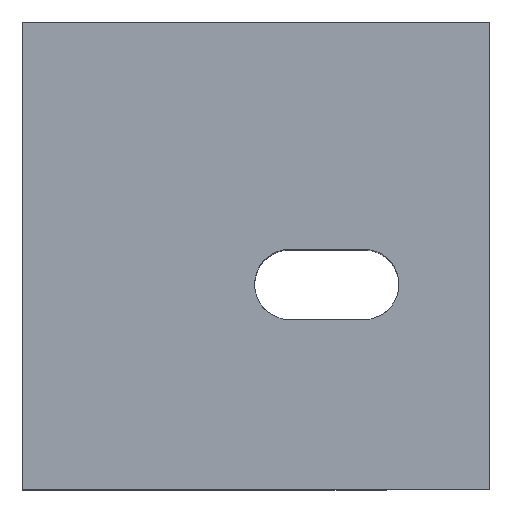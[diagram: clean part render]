
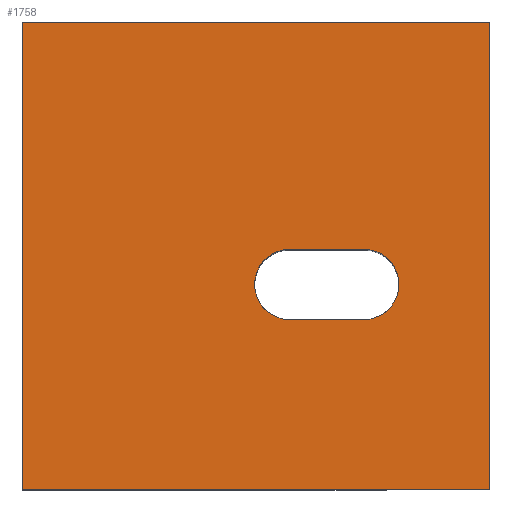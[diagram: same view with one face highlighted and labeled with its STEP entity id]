
A CAD part, top view. The second image highlights one B-rep face of the part: STEP entity #1758.
In plain terms, the highlighted planar face has unit normal (0, 0, 1).
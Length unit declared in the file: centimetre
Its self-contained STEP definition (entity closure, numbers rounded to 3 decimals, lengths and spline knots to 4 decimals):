
#3 = LINE ( 'NONE', #843, #1770 ) ;
#35 = VERTEX_POINT ( 'NONE', #1582 ) ;
#50 = AXIS2_PLACEMENT_3D ( 'NONE', #207, #772, #1604 ) ;
#74 = LINE ( 'NONE', #504, #1227 ) ;
#86 = DIRECTION ( 'NONE',  ( 0., 0., -1. ) ) ;
#92 = CARTESIAN_POINT ( 'NONE',  ( 0., 0., 1000. ) ) ;
#101 = DIRECTION ( 'NONE',  ( 1., 0., 0. ) ) ;
#102 = DIRECTION ( 'NONE',  ( -1., 0., 0. ) ) ;
#125 = ORIENTED_EDGE ( 'NONE', *, *, #445, .T. ) ;
#130 = VERTEX_POINT ( 'NONE', #1653 ) ;
#133 = AXIS2_PLACEMENT_3D ( 'NONE', #219, #86, #1333 ) ;
#141 = AXIS2_PLACEMENT_3D ( 'NONE', #172, #455, #598 ) ;
#149 = CARTESIAN_POINT ( 'NONE',  ( 572.1158, 363.1982, 1000. ) ) ;
#153 = CARTESIAN_POINT ( 'NONE',  ( 1000., 1000., 1000. ) ) ;
#154 = EDGE_LOOP ( 'NONE', ( #224, #1002, #748, #1741 ) ) ;
#158 = CARTESIAN_POINT ( 'NONE',  ( 730.664, 513.591, 1000. ) ) ;
#172 = CARTESIAN_POINT ( 'NONE',  ( 730.664, 438.3946, 1000. ) ) ;
#182 = DIRECTION ( 'NONE',  ( 0., -1., 0. ) ) ;
#186 = EDGE_CURVE ( 'NONE', #130, #35, #3, .T. ) ;
#195 = FACE_OUTER_BOUND ( 'NONE', #154, .T. ) ;
#207 = CARTESIAN_POINT ( 'NONE',  ( 572.1158, 438.3946, 1000. ) ) ;
#219 = CARTESIAN_POINT ( 'NONE',  ( 572.1158, 438.3946, 1000. ) ) ;
#224 = ORIENTED_EDGE ( 'NONE', *, *, #297, .T. ) ;
#242 = VERTEX_POINT ( 'NONE', #812 ) ;
#252 = VERTEX_POINT ( 'NONE', #149 ) ;
#270 = EDGE_CURVE ( 'NONE', #1260, #584, #1544, .T. ) ;
#297 = EDGE_CURVE ( 'NONE', #1391, #130, #1285, .T. ) ;
#307 = ORIENTED_EDGE ( 'NONE', *, *, #1456, .T. ) ;
#314 = EDGE_CURVE ( 'NONE', #35, #1134, #1566, .T. ) ;
#328 = LINE ( 'NONE', #449, #572 ) ;
#395 = EDGE_CURVE ( 'NONE', #242, #1260, #328, .T. ) ;
#445 = EDGE_CURVE ( 'NONE', #584, #252, #74, .T. ) ;
#449 = CARTESIAN_POINT ( 'NONE',  ( 730.664, 513.591, 1000. ) ) ;
#455 = DIRECTION ( 'NONE',  ( 0., 0., -1. ) ) ;
#471 = VECTOR ( 'NONE', #1271, 100. ) ;
#504 = CARTESIAN_POINT ( 'NONE',  ( 572.1158, 363.1982, 1000. ) ) ;
#552 = DIRECTION ( 'NONE',  ( 1., 0., 0. ) ) ;
#572 = VECTOR ( 'NONE', #1413, 100. ) ;
#584 = VERTEX_POINT ( 'NONE', #671 ) ;
#588 = EDGE_CURVE ( 'NONE', #1134, #1391, #799, .T. ) ;
#592 = CIRCLE ( 'NONE', #50, 75.1964 ) ;
#598 = DIRECTION ( 'NONE',  ( 1., 0., 0. ) ) ;
#671 = CARTESIAN_POINT ( 'NONE',  ( 730.664, 363.1982, 1000. ) ) ;
#737 = CARTESIAN_POINT ( 'NONE',  ( 1000., 1000., 1000. ) ) ;
#748 = ORIENTED_EDGE ( 'NONE', *, *, #314, .T. ) ;
#772 = DIRECTION ( 'NONE',  ( 0., 0., -1. ) ) ;
#796 = VECTOR ( 'NONE', #182, 100. ) ;
#799 = LINE ( 'NONE', #1206, #1453 ) ;
#812 = CARTESIAN_POINT ( 'NONE',  ( 572.1158, 513.591, 1000. ) ) ;
#843 = CARTESIAN_POINT ( 'NONE',  ( 0., 0., 1000. ) ) ;
#900 = PLANE ( 'NONE',  #1440 ) ;
#969 = CARTESIAN_POINT ( 'NONE',  ( 496.9194, 438.3946, 1000. ) ) ;
#1001 = CARTESIAN_POINT ( 'NONE',  ( 0., 1000., 1000. ) ) ;
#1002 = ORIENTED_EDGE ( 'NONE', *, *, #186, .T. ) ;
#1127 = ORIENTED_EDGE ( 'NONE', *, *, #270, .T. ) ;
#1134 = VERTEX_POINT ( 'NONE', #153 ) ;
#1135 = CARTESIAN_POINT ( 'NONE',  ( 0., 1000., 1000. ) ) ;
#1206 = CARTESIAN_POINT ( 'NONE',  ( 0., 1000., 1000. ) ) ;
#1227 = VECTOR ( 'NONE', #102, 100. ) ;
#1238 = VERTEX_POINT ( 'NONE', #969 ) ;
#1260 = VERTEX_POINT ( 'NONE', #158 ) ;
#1271 = DIRECTION ( 'NONE',  ( 0., 1., 0. ) ) ;
#1277 = CIRCLE ( 'NONE', #133, 75.1964 ) ;
#1285 = LINE ( 'NONE', #1001, #796 ) ;
#1320 = FACE_BOUND ( 'NONE', #1484, .T. ) ;
#1333 = DIRECTION ( 'NONE',  ( 1., 0., 0. ) ) ;
#1343 = DIRECTION ( 'NONE',  ( -1., 0., 0. ) ) ;
#1391 = VERTEX_POINT ( 'NONE', #1135 ) ;
#1413 = DIRECTION ( 'NONE',  ( 1., 0., 0. ) ) ;
#1440 = AXIS2_PLACEMENT_3D ( 'NONE', #92, #1601, #101 ) ;
#1453 = VECTOR ( 'NONE', #1343, 100. ) ;
#1456 = EDGE_CURVE ( 'NONE', #1238, #242, #1277, .T. ) ;
#1465 = EDGE_CURVE ( 'NONE', #252, #1238, #592, .T. ) ;
#1484 = EDGE_LOOP ( 'NONE', ( #1757, #307, #1524, #1127, #125 ) ) ;
#1524 = ORIENTED_EDGE ( 'NONE', *, *, #395, .T. ) ;
#1544 = CIRCLE ( 'NONE', #141, 75.1964 ) ;
#1566 = LINE ( 'NONE', #737, #471 ) ;
#1582 = CARTESIAN_POINT ( 'NONE',  ( 1000., 0., 1000. ) ) ;
#1601 = DIRECTION ( 'NONE',  ( 0., 0., 1. ) ) ;
#1604 = DIRECTION ( 'NONE',  ( 1., 0., 0. ) ) ;
#1653 = CARTESIAN_POINT ( 'NONE',  ( 0., 0., 1000. ) ) ;
#1741 = ORIENTED_EDGE ( 'NONE', *, *, #588, .T. ) ;
#1757 = ORIENTED_EDGE ( 'NONE', *, *, #1465, .T. ) ;
#1758 = ADVANCED_FACE ( 'NONE', ( #1320, #195 ), #900, .T. ) ;
#1770 = VECTOR ( 'NONE', #552, 100. ) ;
